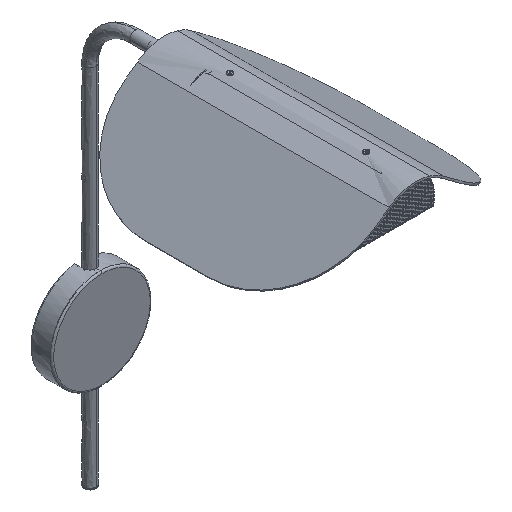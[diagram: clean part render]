
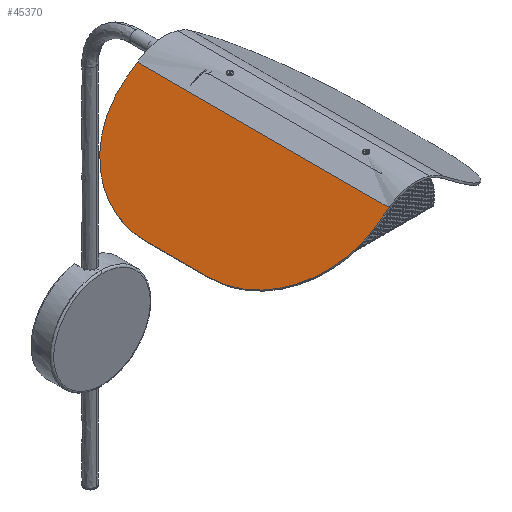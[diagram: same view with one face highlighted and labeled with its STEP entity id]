
A CAD part, isometric view. The second image highlights one B-rep face of the part: STEP entity #45370.
In plain terms, the highlighted free-form (B-spline) face has degree [1, 1] with [2, 2] control points.
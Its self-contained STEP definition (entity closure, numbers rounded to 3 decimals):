
#42700 = CARTESIAN_POINT ('', (-204.264, 159.185, 223.858));
#42710 = VERTEX_POINT ('', #42700);
#42780 = CARTESIAN_POINT ('', (-216.446, 159.185, 214.811));
#42790 = VERTEX_POINT ('', #42780);
#42800 = CARTESIAN_POINT ('', (-204.264, 159.185, 223.858));
#42810 = CARTESIAN_POINT ('', (-216.446, 159.185, 214.811));
#42820 = B_SPLINE_CURVE_WITH_KNOTS ('', 1, (#42800, #42810), .UNSPECIFIED., .F., .U., (2, 2), (0., 1.), .UNSPECIFIED.);
#42830 = EDGE_CURVE ('', #42710, #42790, #42820, .T.);
#43740 = CARTESIAN_POINT ('', (-216.446, 436.185, 214.811));
#43750 = VERTEX_POINT ('', #43740);
#43810 = CARTESIAN_POINT ('', (-204.264, 436.185, 223.858));
#43820 = VERTEX_POINT ('', #43810);
#43830 = CARTESIAN_POINT ('', (-216.446, 436.185, 214.811));
#43840 = CARTESIAN_POINT ('', (-204.264, 436.185, 223.858));
#43850 = B_SPLINE_CURVE_WITH_KNOTS ('', 1, (#43830, #43840), .UNSPECIFIED., .F., .U., (2, 2), (0., 1.), .UNSPECIFIED.);
#43860 = EDGE_CURVE ('', #43750, #43820, #43850, .T.);
#44820 = CARTESIAN_POINT ('', (-299.325, 332.95, 153.26));
#44830 = VERTEX_POINT ('', #44820);
#44900 = CARTESIAN_POINT ('', (-299.325, 262.419, 153.26));
#44910 = VERTEX_POINT ('', #44900);
#44970 = CARTESIAN_POINT ('', (-299.325, 332.95, 153.26));
#44980 = CARTESIAN_POINT ('', (-299.325, 262.419, 153.26));
#44990 = B_SPLINE_CURVE_WITH_KNOTS ('', 1, (#44970, #44980), .UNSPECIFIED., .F., .U., (2, 2), (0., 1.), .UNSPECIFIED.);
#45000 = EDGE_CURVE ('', #44830, #44910, #44990, .T.);
#45100 = CARTESIAN_POINT ('', (-216.446, 436.185, 214.811));
#45110 = CARTESIAN_POINT ('', (-299.325, 436.185, 153.26));
#45120 = CARTESIAN_POINT ('', (-299.325, 332.95, 153.26));
#45130 = (
   BOUNDED_CURVE ()
   B_SPLINE_CURVE (2, (#45100, #45110, #45120), .UNSPECIFIED., .F., .U.)
   B_SPLINE_CURVE_WITH_KNOTS ((3, 3), (0., 90.), .UNSPECIFIED.)
   CURVE ()
   GEOMETRIC_REPRESENTATION_ITEM ()
   RATIONAL_B_SPLINE_CURVE ((1., 0.707, 1.))
   REPRESENTATION_ITEM ('')
);
#45140 = EDGE_CURVE ('', #43750, #44830, #45130, .T.);
#45150 = ORIENTED_EDGE ('', *, *, #45140, .T.);
#45160 = ORIENTED_EDGE ('', *, *, #45000, .T.);
#45170 = CARTESIAN_POINT ('', (-299.325, 262.419, 153.26));
#45180 = CARTESIAN_POINT ('', (-299.325, 159.185, 153.26));
#45190 = CARTESIAN_POINT ('', (-216.446, 159.185, 214.811));
#45200 = (
   BOUNDED_CURVE ()
   B_SPLINE_CURVE (2, (#45170, #45180, #45190), .UNSPECIFIED., .F., .U.)
   B_SPLINE_CURVE_WITH_KNOTS ((3, 3), (0., 90.), .UNSPECIFIED.)
   CURVE ()
   GEOMETRIC_REPRESENTATION_ITEM ()
   RATIONAL_B_SPLINE_CURVE ((1., 0.707, 1.))
   REPRESENTATION_ITEM ('')
);
#45210 = EDGE_CURVE ('', #44910, #42790, #45200, .T.);
#45220 = ORIENTED_EDGE ('', *, *, #45210, .T.);
#45230 = ORIENTED_EDGE ('', *, *, #42830, .F.);
#45240 = CARTESIAN_POINT ('', (-204.264, 436.185, 223.858));
#45250 = CARTESIAN_POINT ('', (-204.264, 159.185, 223.858));
#45260 = B_SPLINE_CURVE_WITH_KNOTS ('', 1, (#45240, #45250), .UNSPECIFIED., .F., .U., (2, 2), (0., 1.), .UNSPECIFIED.);
#45270 = EDGE_CURVE ('', #43820, #42710, #45260, .T.);
#45280 = ORIENTED_EDGE ('', *, *, #45270, .F.);
#45290 = ORIENTED_EDGE ('', *, *, #43860, .F.);
#45300 = EDGE_LOOP ('', (#45150, #45160, #45220, #45230, #45280, #45290));
#45310 = FACE_OUTER_BOUND ('', #45300, .T.);
#45320 = CARTESIAN_POINT ('', (-299.326, 436.186, 153.259));
#45330 = CARTESIAN_POINT ('', (-204.263, 436.186, 223.859));
#45340 = CARTESIAN_POINT ('', (-299.326, 159.184, 153.259));
#45350 = CARTESIAN_POINT ('', (-204.263, 159.184, 223.859));
#45360 = B_SPLINE_SURFACE_WITH_KNOTS ('', 1, 1, ((#45320, #45330), (#45340, #45350)), .UNSPECIFIED., .F., .F., .U., (2, 2), (2, 2), (-277.001, 0.001), (-0.001, 118.411), .UNSPECIFIED.);
#45370 = ADVANCED_FACE ('', (#45310), #45360, .T.);
